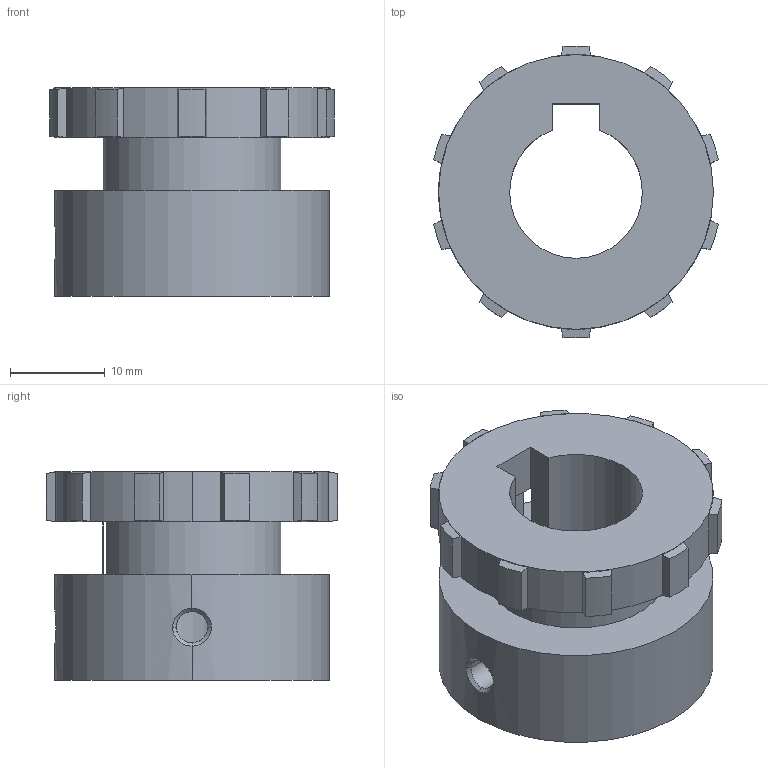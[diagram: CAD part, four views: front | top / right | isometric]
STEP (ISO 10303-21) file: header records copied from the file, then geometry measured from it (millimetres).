
FILE_DESCRIPTION((''),'2;1');
FILE_NAME('510-101-1410_PRT','2021-02-13T',('Brieden'),('Brieden'),'PRO/ENGINEER BY PARAMETRIC TECHNOLOGY CORPORATION, 2010160','PRO/ENGINEER BY PARAMETRIC TECHNOLOGY CORPORATION, 2010160','');
FILE_SCHEMA(('AUTOMOTIVE_DESIGN { 1 0 10303 214 1 1 1 1 }'));
Length unit declared in the file: millimetre
Products named in the file (1): 510-101-1410_PRT
Bounding box: 30.05 x 30.81 x 22 mm (x, y, z)
Volume: 8801.4 mm3; surface area: 4860 mm2
Topology: 1 solids, 1 shells, 74 faces, 189 edges, 124 vertices
Faces by surface type: cylinder 41, torus 20, plane 7, bspline 6
Entity records: 3400 total; most frequent: CARTESIAN_POINT 1018, ORIENTED_EDGE 378, DIRECTION 327, PRESENTATION_STYLE_ASSIGNMENT 190, STYLED_ITEM 190, CURVE_STYLE 189, EDGE_CURVE 189, AXIS2_PLACEMENT_3D 124
